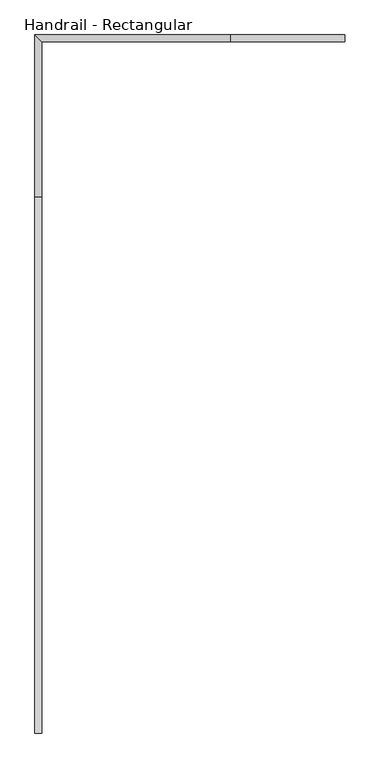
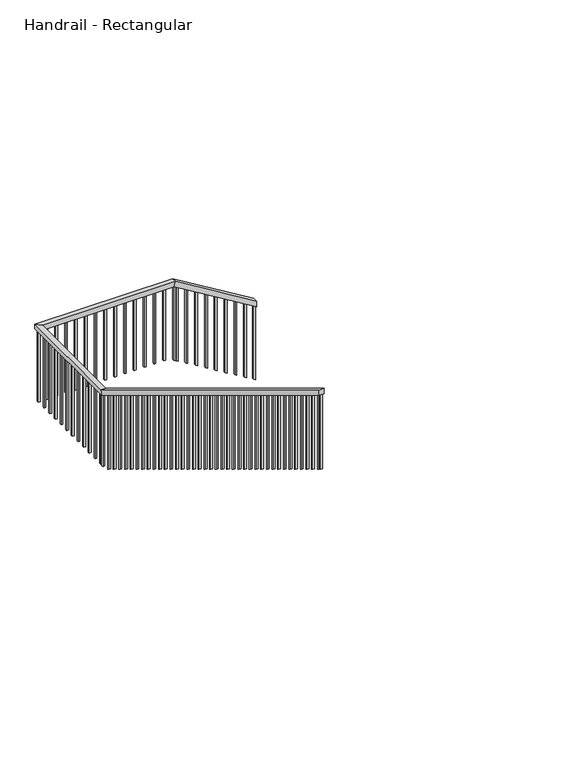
"""IFC4 building model written with IfcOpenShell, lengths in millimetres: railing geometry, Handrail - Rectangular."""

from ifc_helpers import new_model, si_unit, frame, origin, place, context, project, spatial, polyline, outline, extrude, faceted_brep, source, transform, mapped, element, save


def handrail_rectangular_6b034ff7(model_context):
    return source(origin(), model_context, "Body", "SolidModel", [
        faceted_brep([(-197.9594474, 11539.7797491, 1083.7333333), (-197.9594474, 11488.9797491, 1083.7333333), (-197.9594474, 11488.9797491, 1024.3318731), (-197.9594474, 11539.7797491, 1024.3318731), (-1036.1594474, 11539.7797491, 1591.7333333), (-1036.1594474, 11488.9797491, 1591.7333333), (-1050.3518568, 11488.9797491, 1540.9333333), (-1050.3518568, 11539.7797491, 1540.9333333), (-2460.9500398, 11539.7797491, 1591.7333333), (-2410.1500398, 11488.9797491, 1591.7333333), (-2410.1500398, 11488.9797491, 1540.9333333), (-2460.9500398, 11539.7797491, 1540.9333333), (-2460.9500398, 10356.6352196, 1591.7333333), (-2410.1500398, 10356.6352196, 1591.7333333), (-2410.1500398, 10342.4428101, 1540.9333333), (-2460.9500398, 10342.4428101, 1540.9333333), (-2460.9500398, 6445.0352196, 3962.4), (-2460.9500398, 6445.0352196, 3902.9985397), (-2410.1500398, 6445.0352196, 3902.9985397), (-2410.1500398, 6445.0352196, 3962.4)], [[[0, 1, 2, 3]], [[1, 0, 4, 5]], [[2, 1, 5, 6]], [[3, 2, 6, 7]], [[0, 3, 7, 4]], [[5, 4, 8, 9]], [[6, 5, 9, 10]], [[7, 6, 10, 11]], [[4, 7, 11, 8]], [[9, 8, 12, 13]], [[10, 9, 13, 14]], [[11, 10, 14, 15]], [[8, 11, 15, 12]], [[16, 17, 18, 19]], [[13, 12, 16, 19]], [[14, 13, 19, 18]], [[15, 14, 18, 17]], [[12, 15, 17, 16]]]),
        extrude(outline(polyline([(6486.3102196, 3877.9833882), (6505.3602196, 3866.4379337), (6505.3602196, 3054.2205726), (6486.3102196, 3065.7660271), (6486.3102196, 3877.9833882)])), frame((-2445.0750398, 0.0, 0.0), z_axis=(1.0, 0.0, 0.0), x_axis=(0.0, 1.0, 0.0)), (0.0, 0.0, 1.0), 19.05),
        extrude(outline(polyline([(6587.9102196, 3816.4076307), (6606.9602196, 3804.8621761), (6606.9602196, 2992.644815), (6587.9102196, 3004.1902695), (6587.9102196, 3816.4076307)])), frame((-2445.0750398, 0.0, 0.0), z_axis=(1.0, 0.0, 0.0), x_axis=(0.0, 1.0, 0.0)), (0.0, 0.0, 1.0), 19.05),
        extrude(outline(polyline([(6689.5102196, 3754.8318731), (6708.5602196, 3743.2864185), (6708.5602196, 2931.0690574), (6689.5102196, 2942.614512), (6689.5102196, 3754.8318731)])), frame((-2445.0750398, 0.0, 0.0), z_axis=(1.0, 0.0, 0.0), x_axis=(0.0, 1.0, 0.0)), (0.0, 0.0, 1.0), 19.05),
        extrude(outline(polyline([(6791.1102196, 3693.2561155), (6810.1602196, 3681.710661), (6810.1602196, 2869.4932998), (6791.1102196, 2881.0387544), (6791.1102196, 3693.2561155)])), frame((-2445.0750398, 0.0, 0.0), z_axis=(1.0, 0.0, 0.0), x_axis=(0.0, 1.0, 0.0)), (0.0, 0.0, 1.0), 19.05),
        extrude(outline(polyline([(6892.7102196, 3631.6803579), (6911.7602196, 3620.1349034), (6911.7602196, 2807.9175423), (6892.7102196, 2819.4629968), (6892.7102196, 3631.6803579)])), frame((-2445.0750398, 0.0, 0.0), z_axis=(1.0, 0.0, 0.0), x_axis=(0.0, 1.0, 0.0)), (0.0, 0.0, 1.0), 19.05),
        extrude(outline(polyline([(6994.3102196, 3570.1046004), (7013.3602196, 3558.5591458), (7013.3602196, 2746.3417847), (6994.3102196, 2757.8872392), (6994.3102196, 3570.1046004)])), frame((-2445.0750398, 0.0, 0.0), z_axis=(1.0, 0.0, 0.0), x_axis=(0.0, 1.0, 0.0)), (0.0, 0.0, 1.0), 19.05),
        extrude(outline(polyline([(7095.9102196, 3508.5288428), (7114.9602196, 3496.9833882), (7114.9602196, 2684.7660271), (7095.9102196, 2696.3114817), (7095.9102196, 3508.5288428)])), frame((-2445.0750398, 0.0, 0.0), z_axis=(1.0, 0.0, 0.0), x_axis=(0.0, 1.0, 0.0)), (0.0, 0.0, 1.0), 19.05),
        extrude(outline(polyline([(7197.5102196, 3446.9530852), (7216.5602196, 3435.4076307), (7216.5602196, 2623.1902695), (7197.5102196, 2634.7357241), (7197.5102196, 3446.9530852)])), frame((-2445.0750398, 0.0, 0.0), z_axis=(1.0, 0.0, 0.0), x_axis=(0.0, 1.0, 0.0)), (0.0, 0.0, 1.0), 19.05),
        extrude(outline(polyline([(7299.1102196, 3385.3773276), (7318.1602196, 3373.8318731), (7318.1602196, 2561.614512), (7299.1102196, 2573.1599665), (7299.1102196, 3385.3773276)])), frame((-2445.0750398, 0.0, 0.0), z_axis=(1.0, 0.0, 0.0), x_axis=(0.0, 1.0, 0.0)), (0.0, 0.0, 1.0), 19.05),
        extrude(outline(polyline([(7400.7102196, 3323.80157), (7419.7602196, 3312.2561155), (7419.7602196, 2500.0387544), (7400.7102196, 2511.5842089), (7400.7102196, 3323.80157)])), frame((-2445.0750398, 0.0, 0.0), z_axis=(1.0, 0.0, 0.0), x_axis=(0.0, 1.0, 0.0)), (0.0, 0.0, 1.0), 19.05),
        extrude(outline(polyline([(7502.3102196, 3262.2258125), (7521.3602196, 3250.6803579), (7521.3602196, 2438.4629968), (7502.3102196, 2450.0084514), (7502.3102196, 3262.2258125)])), frame((-2445.0750398, 0.0, 0.0), z_axis=(1.0, 0.0, 0.0), x_axis=(0.0, 1.0, 0.0)), (0.0, 0.0, 1.0), 19.05),
        extrude(outline(polyline([(7603.9102196, 3200.6500549), (7622.9602196, 3189.1046004), (7622.9602196, 2376.8872392), (7603.9102196, 2388.4326938), (7603.9102196, 3200.6500549)])), frame((-2445.0750398, 0.0, 0.0), z_axis=(1.0, 0.0, 0.0), x_axis=(0.0, 1.0, 0.0)), (0.0, 0.0, 1.0), 19.05),
        extrude(outline(polyline([(7705.5102196, 3139.0742973), (7724.5602196, 3127.5288428), (7724.5602196, 2315.3114817), (7705.5102196, 2326.8569362), (7705.5102196, 3139.0742973)])), frame((-2445.0750398, 0.0, 0.0), z_axis=(1.0, 0.0, 0.0), x_axis=(0.0, 1.0, 0.0)), (0.0, 0.0, 1.0), 19.05),
        extrude(outline(polyline([(7807.1102196, 3077.4985397), (7826.1602196, 3065.9530852), (7826.1602196, 2253.7357241), (7807.1102196, 2265.2811786), (7807.1102196, 3077.4985397)])), frame((-2445.0750398, 0.0, 0.0), z_axis=(1.0, 0.0, 0.0), x_axis=(0.0, 1.0, 0.0)), (0.0, 0.0, 1.0), 19.05),
        extrude(outline(polyline([(7908.7102196, 3015.9227822), (7927.7602196, 3004.3773276), (7927.7602196, 2192.1599665), (7908.7102196, 2203.7054211), (7908.7102196, 3015.9227822)])), frame((-2445.0750398, 0.0, 0.0), z_axis=(1.0, 0.0, 0.0), x_axis=(0.0, 1.0, 0.0)), (0.0, 0.0, 1.0), 19.05),
        extrude(outline(polyline([(8010.3102196, 2954.3470246), (8029.3602196, 2942.80157), (8029.3602196, 2130.5842089), (8010.3102196, 2142.1296635), (8010.3102196, 2954.3470246)])), frame((-2445.0750398, 0.0, 0.0), z_axis=(1.0, 0.0, 0.0), x_axis=(0.0, 1.0, 0.0)), (0.0, 0.0, 1.0), 19.05),
        extrude(outline(polyline([(8111.9102196, 2892.771267), (8130.9602196, 2881.2258125), (8130.9602196, 2069.0084514), (8111.9102196, 2080.5539059), (8111.9102196, 2892.771267)])), frame((-2445.0750398, 0.0, 0.0), z_axis=(1.0, 0.0, 0.0), x_axis=(0.0, 1.0, 0.0)), (0.0, 0.0, 1.0), 19.05),
        extrude(outline(polyline([(8213.5102196, 2831.1955094), (8232.5602196, 2819.6500549), (8232.5602196, 2007.4326938), (8213.5102196, 2018.9781483), (8213.5102196, 2831.1955094)])), frame((-2445.0750398, 0.0, 0.0), z_axis=(1.0, 0.0, 0.0), x_axis=(0.0, 1.0, 0.0)), (0.0, 0.0, 1.0), 19.05),
        extrude(outline(polyline([(8315.1102196, 2769.6197519), (8334.1602196, 2758.0742973), (8334.1602196, 1945.8569362), (8315.1102196, 1957.4023907), (8315.1102196, 2769.6197519)])), frame((-2445.0750398, 0.0, 0.0), z_axis=(1.0, 0.0, 0.0), x_axis=(0.0, 1.0, 0.0)), (0.0, 0.0, 1.0), 19.05),
        extrude(outline(polyline([(8416.7102196, 2708.0439943), (8435.7602196, 2696.4985397), (8435.7602196, 1884.2811786), (8416.7102196, 1895.8266332), (8416.7102196, 2708.0439943)])), frame((-2445.0750398, 0.0, 0.0), z_axis=(1.0, 0.0, 0.0), x_axis=(0.0, 1.0, 0.0)), (0.0, 0.0, 1.0), 19.05),
        extrude(outline(polyline([(8518.3102196, 2646.4682367), (8537.3602196, 2634.9227822), (8537.3602196, 1822.7054211), (8518.3102196, 1834.2508756), (8518.3102196, 2646.4682367)])), frame((-2445.0750398, 0.0, 0.0), z_axis=(1.0, 0.0, 0.0), x_axis=(0.0, 1.0, 0.0)), (0.0, 0.0, 1.0), 19.05),
        extrude(outline(polyline([(8619.9102196, 2584.8924791), (8638.9602196, 2573.3470246), (8638.9602196, 1761.1296635), (8619.9102196, 1772.675118), (8619.9102196, 2584.8924791)])), frame((-2445.0750398, 0.0, 0.0), z_axis=(1.0, 0.0, 0.0), x_axis=(0.0, 1.0, 0.0)), (0.0, 0.0, 1.0), 19.05),
        extrude(outline(polyline([(8721.5102196, 2523.3167216), (8740.5602196, 2511.771267), (8740.5602196, 1699.5539059), (8721.5102196, 1711.0993604), (8721.5102196, 2523.3167216)])), frame((-2445.0750398, 0.0, 0.0), z_axis=(1.0, 0.0, 0.0), x_axis=(0.0, 1.0, 0.0)), (0.0, 0.0, 1.0), 19.05),
        extrude(outline(polyline([(8823.1102196, 2461.740964), (8842.1602196, 2450.1955094), (8842.1602196, 1637.9781483), (8823.1102196, 1649.5236029), (8823.1102196, 2461.740964)])), frame((-2445.0750398, 0.0, 0.0), z_axis=(1.0, 0.0, 0.0), x_axis=(0.0, 1.0, 0.0)), (0.0, 0.0, 1.0), 19.05),
        extrude(outline(polyline([(8924.7102196, 2400.1652064), (8943.7602196, 2388.6197519), (8943.7602196, 1576.4023907), (8924.7102196, 1587.9478453), (8924.7102196, 2400.1652064)])), frame((-2445.0750398, 0.0, 0.0), z_axis=(1.0, 0.0, 0.0), x_axis=(0.0, 1.0, 0.0)), (0.0, 0.0, 1.0), 19.05),
        extrude(outline(polyline([(9026.3102196, 2338.5894488), (9045.3602196, 2327.0439943), (9045.3602196, 1514.8266332), (9026.3102196, 1526.3720877), (9026.3102196, 2338.5894488)])), frame((-2445.0750398, 0.0, 0.0), z_axis=(1.0, 0.0, 0.0), x_axis=(0.0, 1.0, 0.0)), (0.0, 0.0, 1.0), 19.05),
        extrude(outline(polyline([(9127.9102196, 2277.0136913), (9146.9602196, 2265.4682367), (9146.9602196, 1453.2508756), (9127.9102196, 1464.7963301), (9127.9102196, 2277.0136913)])), frame((-2445.0750398, 0.0, 0.0), z_axis=(1.0, 0.0, 0.0), x_axis=(0.0, 1.0, 0.0)), (0.0, 0.0, 1.0), 19.05),
        extrude(outline(polyline([(9229.5102196, 2215.4379337), (9248.5602196, 2203.8924791), (9248.5602196, 1391.675118), (9229.5102196, 1403.2205726), (9229.5102196, 2215.4379337)])), frame((-2445.0750398, 0.0, 0.0), z_axis=(1.0, 0.0, 0.0), x_axis=(0.0, 1.0, 0.0)), (0.0, 0.0, 1.0), 19.05),
        extrude(outline(polyline([(9331.1102196, 2153.8621761), (9350.1602196, 2142.3167216), (9350.1602196, 1330.0993604), (9331.1102196, 1341.644815), (9331.1102196, 2153.8621761)])), frame((-2445.0750398, 0.0, 0.0), z_axis=(1.0, 0.0, 0.0), x_axis=(0.0, 1.0, 0.0)), (0.0, 0.0, 1.0), 19.05),
        extrude(outline(polyline([(9432.7102196, 2092.2864185), (9451.7602196, 2080.740964), (9451.7602196, 1268.5236029), (9432.7102196, 1280.0690574), (9432.7102196, 2092.2864185)])), frame((-2445.0750398, 0.0, 0.0), z_axis=(1.0, 0.0, 0.0), x_axis=(0.0, 1.0, 0.0)), (0.0, 0.0, 1.0), 19.05),
        extrude(outline(polyline([(9534.3102196, 2030.710661), (9553.3602196, 2019.1652064), (9553.3602196, 1206.9478453), (9534.3102196, 1218.4932998), (9534.3102196, 2030.710661)])), frame((-2445.0750398, 0.0, 0.0), z_axis=(1.0, 0.0, 0.0), x_axis=(0.0, 1.0, 0.0)), (0.0, 0.0, 1.0), 19.05),
        extrude(outline(polyline([(9635.9102196, 1969.1349034), (9654.9602196, 1957.5894488), (9654.9602196, 1145.3720877), (9635.9102196, 1156.9175423), (9635.9102196, 1969.1349034)])), frame((-2445.0750398, 0.0, 0.0), z_axis=(1.0, 0.0, 0.0), x_axis=(0.0, 1.0, 0.0)), (0.0, 0.0, 1.0), 19.05),
        extrude(outline(polyline([(9737.5102196, 1907.5591458), (9756.5602196, 1896.0136913), (9756.5602196, 1083.7963301), (9737.5102196, 1095.3417847), (9737.5102196, 1907.5591458)])), frame((-2445.0750398, 0.0, 0.0), z_axis=(1.0, 0.0, 0.0), x_axis=(0.0, 1.0, 0.0)), (0.0, 0.0, 1.0), 19.05),
        extrude(outline(polyline([(9839.1102196, 1845.9833882), (9858.1602196, 1834.4379337), (9858.1602196, 1022.2205726), (9839.1102196, 1033.7660271), (9839.1102196, 1845.9833882)])), frame((-2445.0750398, 0.0, 0.0), z_axis=(1.0, 0.0, 0.0), x_axis=(0.0, 1.0, 0.0)), (0.0, 0.0, 1.0), 19.05),
        extrude(outline(polyline([(9940.7102196, 1784.4076307), (9959.7602196, 1772.8621761), (9959.7602196, 960.644815), (9940.7102196, 972.1902695), (9940.7102196, 1784.4076307)])), frame((-2445.0750398, 0.0, 0.0), z_axis=(1.0, 0.0, 0.0), x_axis=(0.0, 1.0, 0.0)), (0.0, 0.0, 1.0), 19.05),
        extrude(outline(polyline([(10042.3102196, 1722.8318731), (10061.3602196, 1711.2864185), (10061.3602196, 899.0690574), (10042.3102196, 910.614512), (10042.3102196, 1722.8318731)])), frame((-2445.0750398, 0.0, 0.0), z_axis=(1.0, 0.0, 0.0), x_axis=(0.0, 1.0, 0.0)), (0.0, 0.0, 1.0), 19.05),
        extrude(outline(polyline([(10143.9102196, 1661.2561155), (10162.9602196, 1649.710661), (10162.9602196, 837.4932998), (10143.9102196, 849.0387544), (10143.9102196, 1661.2561155)])), frame((-2445.0750398, 0.0, 0.0), z_axis=(1.0, 0.0, 0.0), x_axis=(0.0, 1.0, 0.0)), (0.0, 0.0, 1.0), 19.05),
        extrude(outline(polyline([(10245.5102196, 1599.6803579), (10264.5602196, 1588.1349034), (10264.5602196, 775.9175423), (10245.5102196, 787.4629968), (10245.5102196, 1599.6803579)])), frame((-2445.0750398, 0.0, 0.0), z_axis=(1.0, 0.0, 0.0), x_axis=(0.0, 1.0, 0.0)), (0.0, 0.0, 1.0), 19.05),
        extrude(outline(polyline([(-2445.0750398, 10406.3047491), (-2426.0250398, 10406.3047491), (-2426.0250398, 10387.2547491), (-2445.0750398, 10387.2547491), (-2445.0750398, 10406.3047491)])), frame((0.0, 0.0, 753.5333333), z_axis=(0.0, 0.0, 1.0), x_axis=(1.0, 0.0, 0.0)), (0.0, 0.0, 1.0), 787.4),
        extrude(outline(polyline([(-2445.0750398, 10507.9047491), (-2426.0250398, 10507.9047491), (-2426.0250398, 10488.8547491), (-2445.0750398, 10488.8547491), (-2445.0750398, 10507.9047491)])), frame((0.0, 0.0, 753.5333333), z_axis=(0.0, 0.0, 1.0), x_axis=(1.0, 0.0, 0.0)), (0.0, 0.0, 1.0), 787.4),
        extrude(outline(polyline([(-2445.0750398, 10609.5047491), (-2426.0250398, 10609.5047491), (-2426.0250398, 10590.4547491), (-2445.0750398, 10590.4547491), (-2445.0750398, 10609.5047491)])), frame((0.0, 0.0, 753.5333333), z_axis=(0.0, 0.0, 1.0), x_axis=(1.0, 0.0, 0.0)), (0.0, 0.0, 1.0), 787.4),
        extrude(outline(polyline([(-2445.0750398, 10711.1047491), (-2426.0250398, 10711.1047491), (-2426.0250398, 10692.0547491), (-2445.0750398, 10692.0547491), (-2445.0750398, 10711.1047491)])), frame((0.0, 0.0, 753.5333333), z_axis=(0.0, 0.0, 1.0), x_axis=(1.0, 0.0, 0.0)), (0.0, 0.0, 1.0), 787.4),
        extrude(outline(polyline([(-2445.0750398, 10812.7047491), (-2426.0250398, 10812.7047491), (-2426.0250398, 10793.6547491), (-2445.0750398, 10793.6547491), (-2445.0750398, 10812.7047491)])), frame((0.0, 0.0, 753.5333333), z_axis=(0.0, 0.0, 1.0), x_axis=(1.0, 0.0, 0.0)), (0.0, 0.0, 1.0), 787.4),
        extrude(outline(polyline([(-2445.0750398, 10914.3047491), (-2426.0250398, 10914.3047491), (-2426.0250398, 10895.2547491), (-2445.0750398, 10895.2547491), (-2445.0750398, 10914.3047491)])), frame((0.0, 0.0, 753.5333333), z_axis=(0.0, 0.0, 1.0), x_axis=(1.0, 0.0, 0.0)), (0.0, 0.0, 1.0), 787.4),
        extrude(outline(polyline([(-2445.0750398, 11015.9047491), (-2426.0250398, 11015.9047491), (-2426.0250398, 10996.8547491), (-2445.0750398, 10996.8547491), (-2445.0750398, 11015.9047491)])), frame((0.0, 0.0, 753.5333333), z_axis=(0.0, 0.0, 1.0), x_axis=(1.0, 0.0, 0.0)), (0.0, 0.0, 1.0), 787.4),
        extrude(outline(polyline([(-2445.0750398, 11117.5047491), (-2426.0250398, 11117.5047491), (-2426.0250398, 11098.4547491), (-2445.0750398, 11098.4547491), (-2445.0750398, 11117.5047491)])), frame((0.0, 0.0, 753.5333333), z_axis=(0.0, 0.0, 1.0), x_axis=(1.0, 0.0, 0.0)), (0.0, 0.0, 1.0), 787.4),
        extrude(outline(polyline([(-2445.0750398, 11219.1047491), (-2426.0250398, 11219.1047491), (-2426.0250398, 11200.0547491), (-2445.0750398, 11200.0547491), (-2445.0750398, 11219.1047491)])), frame((0.0, 0.0, 753.5333333), z_axis=(0.0, 0.0, 1.0), x_axis=(1.0, 0.0, 0.0)), (0.0, 0.0, 1.0), 787.4),
        extrude(outline(polyline([(-2445.0750398, 11320.7047491), (-2426.0250398, 11320.7047491), (-2426.0250398, 11301.6547491), (-2445.0750398, 11301.6547491), (-2445.0750398, 11320.7047491)])), frame((0.0, 0.0, 753.5333333), z_axis=(0.0, 0.0, 1.0), x_axis=(1.0, 0.0, 0.0)), (0.0, 0.0, 1.0), 787.4),
        extrude(outline(polyline([(-2445.0750398, 11422.3047491), (-2426.0250398, 11422.3047491), (-2426.0250398, 11403.2547491), (-2445.0750398, 11403.2547491), (-2445.0750398, 11422.3047491)])), frame((0.0, 0.0, 753.5333333), z_axis=(0.0, 0.0, 1.0), x_axis=(1.0, 0.0, 0.0)), (0.0, 0.0, 1.0), 787.4),
        extrude(outline(polyline([(-2347.4344474, 11523.9047491), (-2347.4344474, 11504.8547491), (-2366.4844474, 11504.8547491), (-2366.4844474, 11523.9047491), (-2347.4344474, 11523.9047491)])), frame((0.0, 0.0, 753.5333333), z_axis=(0.0, 0.0, 1.0), x_axis=(1.0, 0.0, 0.0)), (0.0, 0.0, 1.0), 787.4),
        extrude(outline(polyline([(-2245.8344474, 11523.9047491), (-2245.8344474, 11504.8547491), (-2264.8844474, 11504.8547491), (-2264.8844474, 11523.9047491), (-2245.8344474, 11523.9047491)])), frame((0.0, 0.0, 753.5333333), z_axis=(0.0, 0.0, 1.0), x_axis=(1.0, 0.0, 0.0)), (0.0, 0.0, 1.0), 787.4),
        extrude(outline(polyline([(-2144.2344474, 11523.9047491), (-2144.2344474, 11504.8547491), (-2163.2844474, 11504.8547491), (-2163.2844474, 11523.9047491), (-2144.2344474, 11523.9047491)])), frame((0.0, 0.0, 753.5333333), z_axis=(0.0, 0.0, 1.0), x_axis=(1.0, 0.0, 0.0)), (0.0, 0.0, 1.0), 787.4),
        extrude(outline(polyline([(-2042.6344474, 11523.9047491), (-2042.6344474, 11504.8547491), (-2061.6844474, 11504.8547491), (-2061.6844474, 11523.9047491), (-2042.6344474, 11523.9047491)])), frame((0.0, 0.0, 753.5333333), z_axis=(0.0, 0.0, 1.0), x_axis=(1.0, 0.0, 0.0)), (0.0, 0.0, 1.0), 787.4),
        extrude(outline(polyline([(-1941.0344474, 11523.9047491), (-1941.0344474, 11504.8547491), (-1960.0844474, 11504.8547491), (-1960.0844474, 11523.9047491), (-1941.0344474, 11523.9047491)])), frame((0.0, 0.0, 753.5333333), z_axis=(0.0, 0.0, 1.0), x_axis=(1.0, 0.0, 0.0)), (0.0, 0.0, 1.0), 787.4),
        extrude(outline(polyline([(-1839.4344474, 11523.9047491), (-1839.4344474, 11504.8547491), (-1858.4844474, 11504.8547491), (-1858.4844474, 11523.9047491), (-1839.4344474, 11523.9047491)])), frame((0.0, 0.0, 753.5333333), z_axis=(0.0, 0.0, 1.0), x_axis=(1.0, 0.0, 0.0)), (0.0, 0.0, 1.0), 787.4),
        extrude(outline(polyline([(-1737.8344474, 11523.9047491), (-1737.8344474, 11504.8547491), (-1756.8844474, 11504.8547491), (-1756.8844474, 11523.9047491), (-1737.8344474, 11523.9047491)])), frame((0.0, 0.0, 753.5333333), z_axis=(0.0, 0.0, 1.0), x_axis=(1.0, 0.0, 0.0)), (0.0, 0.0, 1.0), 787.4),
        extrude(outline(polyline([(-1636.2344474, 11523.9047491), (-1636.2344474, 11504.8547491), (-1655.2844474, 11504.8547491), (-1655.2844474, 11523.9047491), (-1636.2344474, 11523.9047491)])), frame((0.0, 0.0, 753.5333333), z_axis=(0.0, 0.0, 1.0), x_axis=(1.0, 0.0, 0.0)), (0.0, 0.0, 1.0), 787.4),
        extrude(outline(polyline([(-1534.6344474, 11523.9047491), (-1534.6344474, 11504.8547491), (-1553.6844474, 11504.8547491), (-1553.6844474, 11523.9047491), (-1534.6344474, 11523.9047491)])), frame((0.0, 0.0, 753.5333333), z_axis=(0.0, 0.0, 1.0), x_axis=(1.0, 0.0, 0.0)), (0.0, 0.0, 1.0), 787.4),
        extrude(outline(polyline([(-1433.0344474, 11523.9047491), (-1433.0344474, 11504.8547491), (-1452.0844474, 11504.8547491), (-1452.0844474, 11523.9047491), (-1433.0344474, 11523.9047491)])), frame((0.0, 0.0, 753.5333333), z_axis=(0.0, 0.0, 1.0), x_axis=(1.0, 0.0, 0.0)), (0.0, 0.0, 1.0), 787.4),
        extrude(outline(polyline([(-1331.4344474, 11523.9047491), (-1331.4344474, 11504.8547491), (-1350.4844474, 11504.8547491), (-1350.4844474, 11523.9047491), (-1331.4344474, 11523.9047491)])), frame((0.0, 0.0, 753.5333333), z_axis=(0.0, 0.0, 1.0), x_axis=(1.0, 0.0, 0.0)), (0.0, 0.0, 1.0), 787.4),
        extrude(outline(polyline([(-1229.8344474, 11523.9047491), (-1229.8344474, 11504.8547491), (-1248.8844474, 11504.8547491), (-1248.8844474, 11523.9047491), (-1229.8344474, 11523.9047491)])), frame((0.0, 0.0, 753.5333333), z_axis=(0.0, 0.0, 1.0), x_axis=(1.0, 0.0, 0.0)), (0.0, 0.0, 1.0), 787.4),
        extrude(outline(polyline([(-1128.2344474, 11523.9047491), (-1128.2344474, 11504.8547491), (-1147.2844474, 11504.8547491), (-1147.2844474, 11523.9047491), (-1128.2344474, 11523.9047491)])), frame((0.0, 0.0, 753.5333333), z_axis=(0.0, 0.0, 1.0), x_axis=(1.0, 0.0, 0.0)), (0.0, 0.0, 1.0), 787.4),
        extrude(outline(polyline([(1511.1652064, -1001.2344474), (1522.710661, -1020.2844474), (710.4932998, -1020.2844474), (698.9478453, -1001.2344474), (1511.1652064, -1001.2344474)])), frame((0.0, 11504.8547491, 0.0), z_axis=(0.0, 1.0, 0.0), x_axis=(0.0, 0.0, 1.0)), (0.0, 0.0, 1.0), 19.05),
        extrude(outline(polyline([(1449.5894488, -899.6344474), (1461.1349034, -918.6844474), (648.9175423, -918.6844474), (637.3720877, -899.6344474), (1449.5894488, -899.6344474)])), frame((0.0, 11504.8547491, 0.0), z_axis=(0.0, 1.0, 0.0), x_axis=(0.0, 0.0, 1.0)), (0.0, 0.0, 1.0), 19.05),
        extrude(outline(polyline([(1388.0136913, -798.0344474), (1399.5591458, -817.0844474), (587.3417847, -817.0844474), (575.7963301, -798.0344474), (1388.0136913, -798.0344474)])), frame((0.0, 11504.8547491, 0.0), z_axis=(0.0, 1.0, 0.0), x_axis=(0.0, 0.0, 1.0)), (0.0, 0.0, 1.0), 19.05),
        extrude(outline(polyline([(1326.4379337, -696.4344474), (1337.9833882, -715.4844474), (525.7660271, -715.4844474), (514.2205726, -696.4344474), (1326.4379337, -696.4344474)])), frame((0.0, 11504.8547491, 0.0), z_axis=(0.0, 1.0, 0.0), x_axis=(0.0, 0.0, 1.0)), (0.0, 0.0, 1.0), 19.05),
        extrude(outline(polyline([(1264.8621761, -594.8344474), (1276.4076307, -613.8844474), (464.1902695, -613.8844474), (452.644815, -594.8344474), (1264.8621761, -594.8344474)])), frame((0.0, 11504.8547491, 0.0), z_axis=(0.0, 1.0, 0.0), x_axis=(0.0, 0.0, 1.0)), (0.0, 0.0, 1.0), 19.05),
        extrude(outline(polyline([(1203.2864185, -493.2344474), (1214.8318731, -512.2844474), (402.614512, -512.2844474), (391.0690574, -493.2344474), (1203.2864185, -493.2344474)])), frame((0.0, 11504.8547491, 0.0), z_axis=(0.0, 1.0, 0.0), x_axis=(0.0, 0.0, 1.0)), (0.0, 0.0, 1.0), 19.05),
        extrude(outline(polyline([(1141.710661, -391.6344474), (1153.2561155, -410.6844474), (341.0387544, -410.6844474), (329.4932998, -391.6344474), (1141.710661, -391.6344474)])), frame((0.0, 11504.8547491, 0.0), z_axis=(0.0, 1.0, 0.0), x_axis=(0.0, 0.0, 1.0)), (0.0, 0.0, 1.0), 19.05),
        extrude(outline(polyline([(1080.1349034, -290.0344474), (1091.6803579, -309.0844474), (279.4629968, -309.0844474), (267.9175423, -290.0344474), (1080.1349034, -290.0344474)])), frame((0.0, 11504.8547491, 0.0), z_axis=(0.0, 1.0, 0.0), x_axis=(0.0, 0.0, 1.0)), (0.0, 0.0, 1.0), 19.05),
        extrude(outline(polyline([(10347.1102196, 1538.1046004), (10366.1602196, 1526.5591458), (10366.1602196, 753.5333333), (10347.1102196, 753.5333333), (10347.1102196, 1538.1046004)])), frame((-2445.0750398, 0.0, 0.0), z_axis=(1.0, 0.0, 0.0), x_axis=(0.0, 1.0, 0.0)), (0.0, 0.0, 1.0), 19.05),
        extrude(outline(polyline([(-2426.0250398, 11523.9047491), (-2426.0250398, 11504.8547491), (-2445.0750398, 11504.8547491), (-2445.0750398, 11523.9047491), (-2426.0250398, 11523.9047491)])), frame((0.0, 0.0, 753.5333333), z_axis=(0.0, 0.0, 1.0), x_axis=(1.0, 0.0, 0.0)), (0.0, 0.0, 1.0), 787.4),
        extrude(outline(polyline([(1526.5591458, -1026.6344474), (1538.1046004, -1045.6844474), (725.8872392, -1045.6844474), (714.3417847, -1026.6344474), (1526.5591458, -1026.6344474)])), frame((0.0, 11504.8547491, 0.0), z_axis=(0.0, 1.0, 0.0), x_axis=(0.0, 0.0, 1.0)), (0.0, 0.0, 1.0), 19.05),
        extrude(outline(polyline([(6445.0352196, 3902.9985397), (6464.0852196, 3891.4530852), (6464.0852196, 3079.2357241), (6445.0352196, 3090.7811786), (6445.0352196, 3902.9985397)])), frame((-2445.0750398, 0.0, 0.0), z_axis=(1.0, 0.0, 0.0), x_axis=(0.0, 1.0, 0.0)), (0.0, 0.0, 1.0), 19.05),
        extrude(outline(polyline([(1024.3318731, -197.9594474), (1035.8773276, -217.0094474), (223.6599665, -217.0094474), (212.114512, -197.9594474), (1024.3318731, -197.9594474)])), frame((0.0, 11504.8547491, 0.0), z_axis=(0.0, 1.0, 0.0), x_axis=(0.0, 0.0, 1.0)), (0.0, 0.0, 1.0), 19.05),
    ])


if __name__ == "__main__":
    model = new_model("IFC4")
    model_context = context("Model", 3, world=origin())
    ifc_project = project(units=[si_unit("LENGTHUNIT", "METRE", prefix="MILLI")], contexts=[model_context])
    site = spatial("IfcSite", under=ifc_project)
    building = spatial("IfcBuilding", under=site)
    placement = place(None, origin())
    handrail_rectangular_shape = handrail_rectangular_6b034ff7(model_context)
    element("IfcRailing", 1, ObjectType="Handrail - Rectangular", at=placement, inside=building, context=model_context, shape_type="MappedRepresentation", body=[
        mapped(handrail_rectangular_shape, transform((0.0, 0.0, 0.0), x_axis=(1.0, 0.0, 0.0), y_axis=(0.0, 1.0, 0.0), z_axis=(0.0, 0.0, 1.0))),
    ])
    save(model, "model.ifc")
